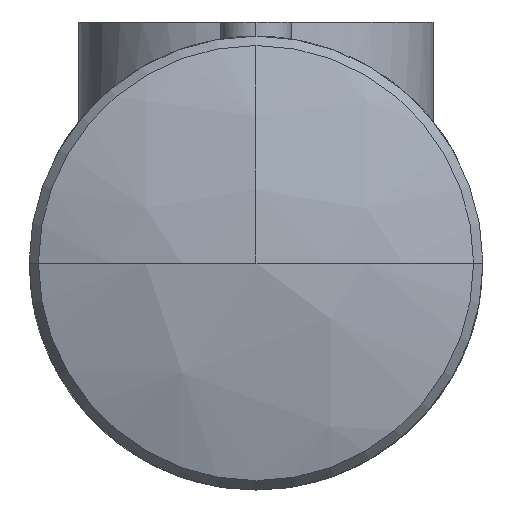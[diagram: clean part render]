
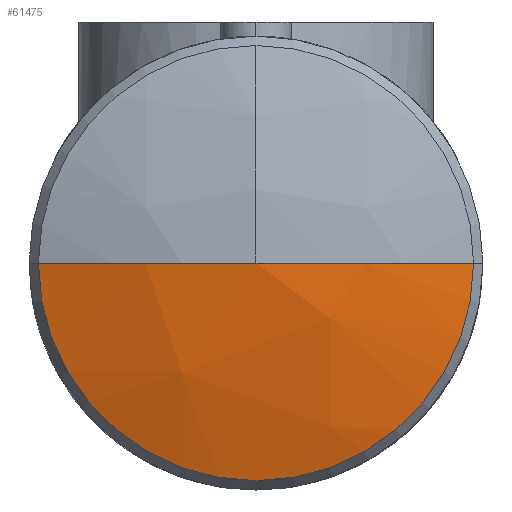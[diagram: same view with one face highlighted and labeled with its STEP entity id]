
A CAD part, left-side view. The second image highlights one B-rep face of the part: STEP entity #61475.
In plain terms, the highlighted spherical face has radius 44.824 mm.
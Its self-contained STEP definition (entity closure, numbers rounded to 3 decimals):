
#4208 = CARTESIAN_POINT ( 'NONE',  ( -131.276, -80., 0. ) ) ;
#4561 = ORIENTED_EDGE ( 'NONE', *, *, #10642, .F. ) ;
#4590 = AXIS2_PLACEMENT_3D ( 'NONE', #43319, #37958, #43090 ) ;
#5859 = EDGE_CURVE ( 'NONE', #39194, #22891, #48237, .T. ) ;
#10642 = EDGE_CURVE ( 'NONE', #11148, #22891, #55707, .T. ) ;
#11148 = VERTEX_POINT ( 'NONE', #42266 ) ;
#13948 = SPHERICAL_SURFACE ( 'NONE', #43781, 44.824 ) ;
#15621 = DIRECTION ( 'NONE',  ( 0., 0., 1. ) ) ;
#21055 = FACE_OUTER_BOUND ( 'NONE', #46566, .T. ) ;
#22891 = VERTEX_POINT ( 'NONE', #29230 ) ;
#24236 = CARTESIAN_POINT ( 'NONE',  ( -173.393, -80., 0. ) ) ;
#29230 = CARTESIAN_POINT ( 'NONE',  ( -173.393, -95.342, 0. ) ) ;
#37958 = DIRECTION ( 'NONE',  ( -1., 0., 0. ) ) ;
#39194 = VERTEX_POINT ( 'NONE', #67492 ) ;
#39927 = DIRECTION ( 'NONE',  ( 0., 0., -1. ) ) ;
#42266 = CARTESIAN_POINT ( 'NONE',  ( -173.393, -64.658, 0. ) ) ;
#43090 = DIRECTION ( 'NONE',  ( 0., 0., -1. ) ) ;
#43319 = CARTESIAN_POINT ( 'NONE',  ( -173.393, -80., 0. ) ) ;
#43781 = AXIS2_PLACEMENT_3D ( 'NONE', #67529, #67297, #68007 ) ;
#46566 = EDGE_LOOP ( 'NONE', ( #48177, #72445, #4561 ) ) ;
#48177 = ORIENTED_EDGE ( 'NONE', *, *, #48765, .T. ) ;
#48237 = CIRCLE ( 'NONE', #4590, 15.342 ) ;
#48765 = EDGE_CURVE ( 'NONE', #11148, #39194, #56233, .T. ) ;
#54771 = DIRECTION ( 'NONE',  ( 1., 0., 0. ) ) ;
#55707 = CIRCLE ( 'NONE', #58459, 44.824 ) ;
#56233 = CIRCLE ( 'NONE', #69105, 15.342 ) ;
#58459 = AXIS2_PLACEMENT_3D ( 'NONE', #4208, #15621, #54771 ) ;
#61475 = ADVANCED_FACE ( 'NONE', ( #21055 ), #13948, .T. ) ;
#63132 = DIRECTION ( 'NONE',  ( -1., 0., 0. ) ) ;
#67297 = DIRECTION ( 'NONE',  ( 0., 1., 0. ) ) ;
#67492 = CARTESIAN_POINT ( 'NONE',  ( -173.393, -80., -15.342 ) ) ;
#67529 = CARTESIAN_POINT ( 'NONE',  ( -131.276, -80., 0. ) ) ;
#68007 = DIRECTION ( 'NONE',  ( 0., 0., 1. ) ) ;
#69105 = AXIS2_PLACEMENT_3D ( 'NONE', #24236, #63132, #39927 ) ;
#72445 = ORIENTED_EDGE ( 'NONE', *, *, #5859, .T. ) ;
